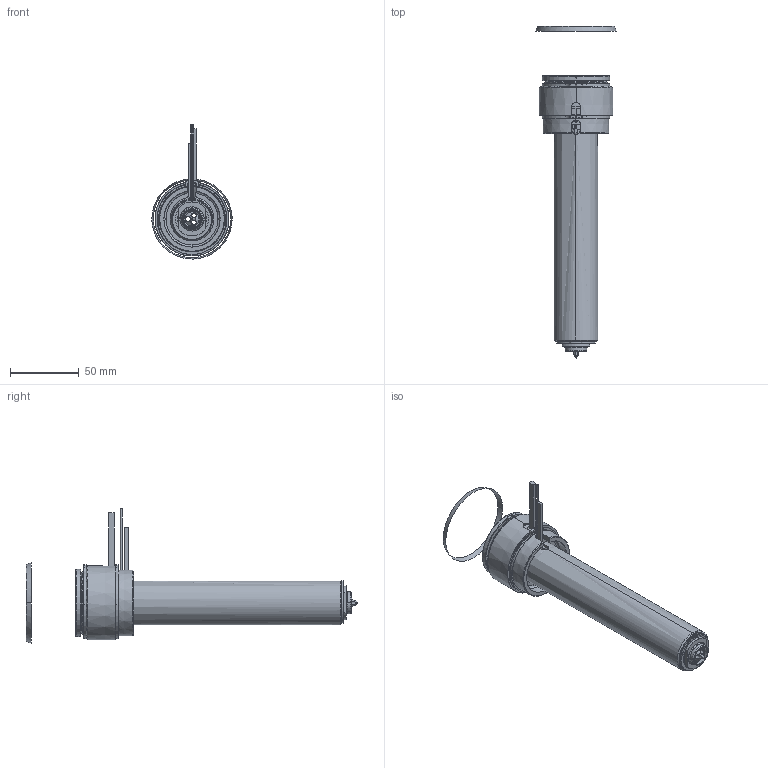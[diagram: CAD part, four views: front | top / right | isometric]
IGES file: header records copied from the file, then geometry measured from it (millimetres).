
Start section: SolidWorks IGES file using analytic representation for surfaces
Global section: file name: C:\Documents and Settings\ws-20\Desktop\TEM\UGEP5504-S-A-1 [Øf-1.36 ØC-13].IGS; native system: SolidWorks 2012; preprocessor: SolidWorks 2012; author: ws-20; date: 120427.082016; units: millimetre
Bounding box: 58.57 x 242.24 x 97.91 mm (x, y, z)
Surface area: 87250 mm2 (no closed solid volume)
Topology: 0 solids, 0 shells, 178 faces, 3636 edges, 3636 vertices
Faces by surface type: revolution 114, bspline 64
